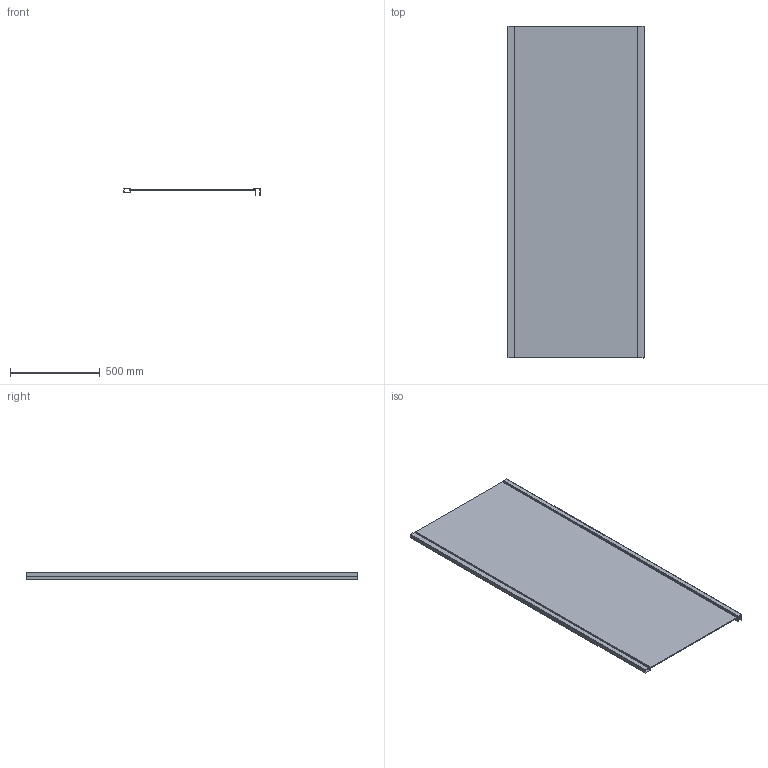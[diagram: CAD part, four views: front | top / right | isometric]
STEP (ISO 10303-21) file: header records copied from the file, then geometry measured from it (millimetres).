
FILE_DESCRIPTION(/* description */ (''),/* implementation_level */ '2;1');
FILE_NAME(/* name */ 'D:\Omnires\Export_Omnires\rys_step\5901867770059_stp.stp',/* time_stamp */ '2020-07-27T15:34:15+02:00',/* author */ (''),/* organization */ (''),/* preprocessor_version */ 'ST-DEVELOPER v18.1',/* originating_system */ 'Autodesk Inventor 2020',/* authorisation */ '');
FILE_SCHEMA (('AUTOMOTIVE_DESIGN { 1 0 10303 214 3 1 1 }'));
Length unit declared in the file: millimetre
Products named in the file (1): 5901867770059_dwg
Bounding box: 760.1 x 1850 x 40.24 mm (x, y, z)
Surface area: 3646379.3 mm2 (no closed solid volume)
Topology: 0 solids, 3 shells, 82 faces, 230 edges, 154 vertices
Faces by surface type: plane 82
Entity records: 2721 total; most frequent: CARTESIAN_POINT 467, ORIENTED_EDGE 460, DIRECTION 396, LINE 230, VECTOR 230, EDGE_CURVE 230, VERTEX_POINT 154, EDGE_LOOP 84
